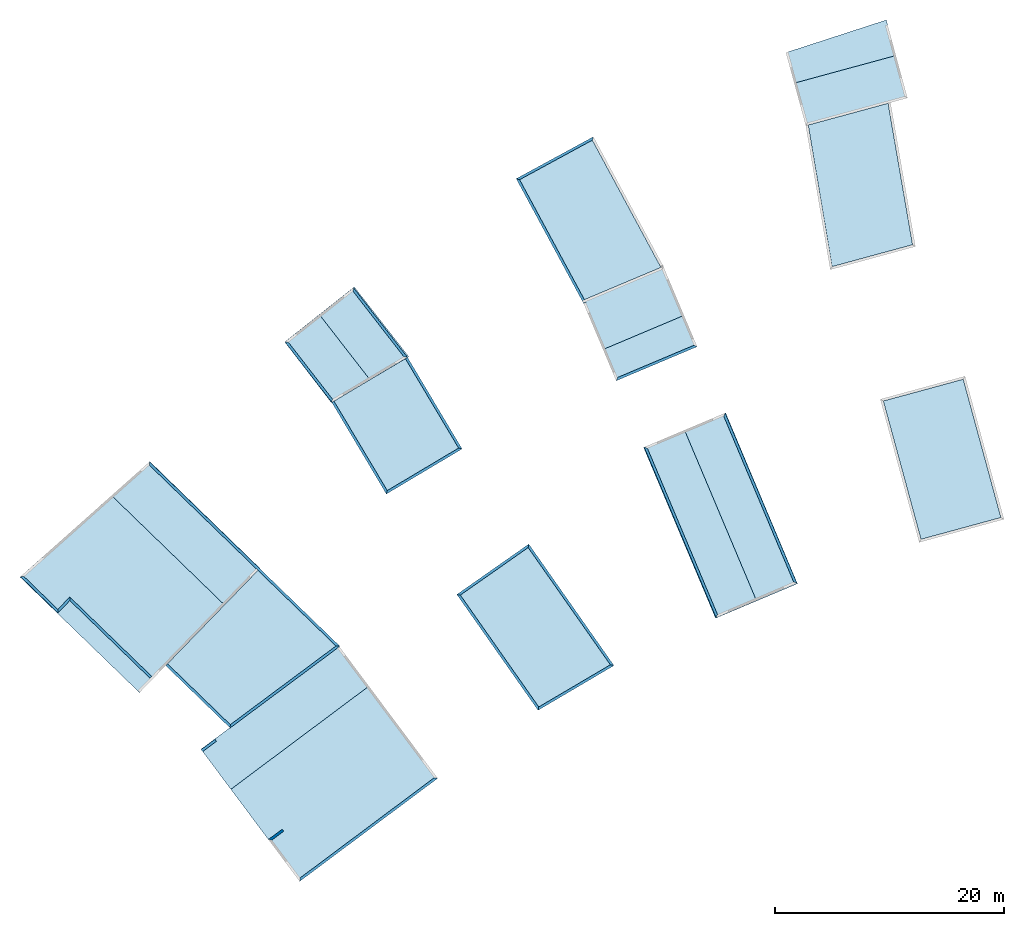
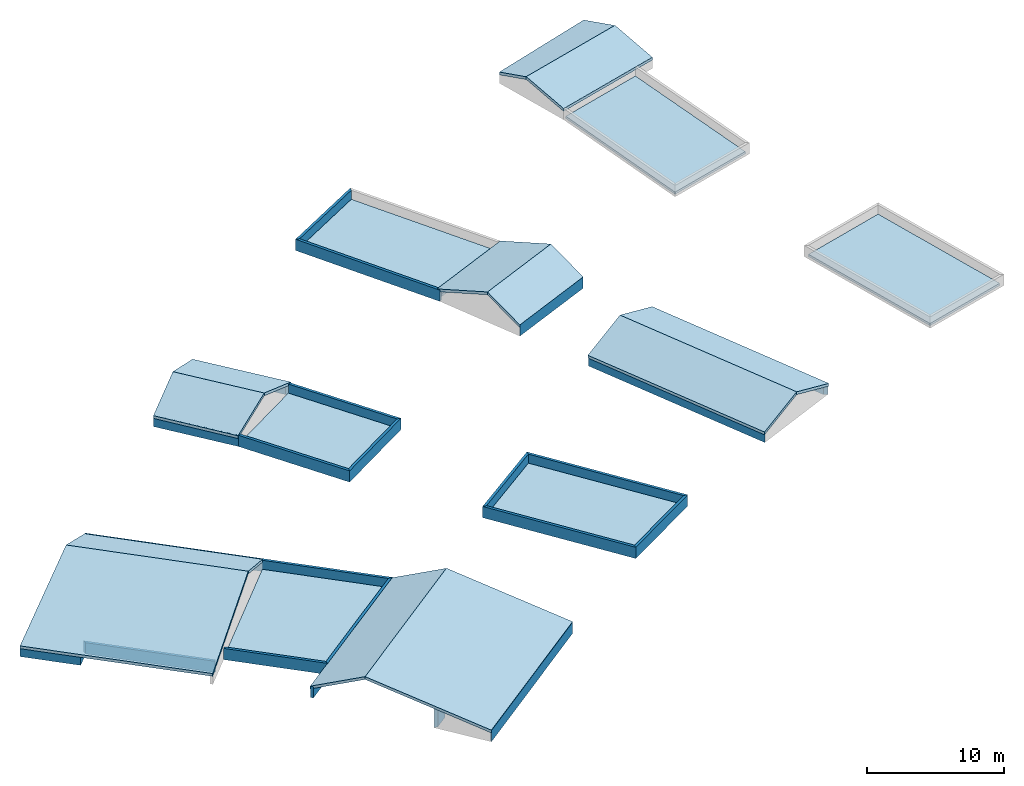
# One storey, part 1 of 4: 23 walls, 18 slabs.
"""IFC2X3 building model written with IfcOpenShell, lengths in metres."""

from ifc_helpers import new_model, entity, si_unit, converted_unit, derived_unit, money_unit, direction, frame, origin_with_axes, place, context, subcontext, project, spatial, polyline, outline, extrude, material, layer, layer_set, layer_usage, type_object, element, save


model = new_model("IFC2X3")

# Units and contexts
model_context = context("Model", 3, precision=1e-05, world=origin_with_axes(), true_north=direction((0.0, 1.0)))
body_context = subcontext(model_context, "Body", "Model", "MODEL_VIEW")
ifc_project = project(units=[si_unit("LENGTHUNIT", "METRE"), si_unit("AREAUNIT", "SQUARE_METRE"), si_unit("VOLUMEUNIT", "CUBIC_METRE"), converted_unit("PLANEANGLEUNIT", "DEGREE", entity("IfcPlaneAngleMeasure", 0.0174532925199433), si_unit("PLANEANGLEUNIT", "RADIAN"), dimensions=[0, 0, 0, 0, 0, 0, 0]), money_unit("CHF"), converted_unit("TIMEUNIT", "Year", entity("IfcTimeMeasure", 31557600.0), si_unit("TIMEUNIT", "SECOND"), dimensions=[0, 0, 1, 0, 0, 0, 0]), si_unit("MASSUNIT", "GRAM", prefix="KILO"), si_unit("THERMODYNAMICTEMPERATUREUNIT", "DEGREE_CELSIUS"), si_unit("LUMINOUSINTENSITYUNIT", "LUMEN"), si_unit("ENERGYUNIT", "JOULE", prefix="MEGA"), derived_unit("THERMALCONDUCTANCEUNIT", [(si_unit("POWERUNIT", "WATT"), 1), (si_unit("LENGTHUNIT", "METRE"), -1), (si_unit("THERMODYNAMICTEMPERATUREUNIT", "KELVIN"), -1)]), derived_unit("SPECIFICHEATCAPACITYUNIT", [(si_unit("ENERGYUNIT", "JOULE"), 1), (si_unit("MASSUNIT", "GRAM", prefix="KILO"), -1), (si_unit("THERMODYNAMICTEMPERATUREUNIT", "KELVIN"), -1)]), derived_unit("MASSDENSITYUNIT", [(si_unit("MASSUNIT", "GRAM", prefix="KILO"), 1), (si_unit("VOLUMEUNIT", "CUBIC_METRE"), -1)])], contexts=[model_context])

# Site, building, storey
site_placement = place(None, origin_with_axes())
site = spatial("IfcSite", under=ifc_project, at=site_placement, Name="Site", CompositionType="ELEMENT")
building_placement = place(site_placement, origin_with_axes())
building = spatial("IfcBuilding", under=site, at=building_placement, Name="Bâtiment", CompositionType="ELEMENT")
storey_placement = place(building_placement, frame((0.0, 0.0, 5.5), z_axis=(0.0, 0.0, 1.0), x_axis=(1.0, 0.0, 0.0)))
storey = spatial("IfcBuildingStorey", under=building, at=storey_placement, Name="Etage 2", CompositionType="ELEMENT", Elevation=5.5)

# Slabs
ifc_material_1 = material(Name="ANSI31 297159430")
ifc_layer_1 = layer(ifc_material_1, 0.2, ventilated="UNKNOWN")
ifc_layer_set_1 = layer_set([ifc_layer_1], Name="ANSI31 297159430 0.2")
ifc_layer_usage_1 = layer_usage(ifc_layer_set_1, "AXIS3", "NEGATIVE", 0.2)
slab_type_1 = type_object("IfcSlabType", Name="ANSI31 297159430 200", PredefinedType="FLOOR")
slab_1_placement = place(storey_placement, frame((9524.094661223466, -1070.024929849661, 57.9), z_axis=(0.0, 0.0, 1.0), x_axis=(1.0, 0.0, 0.0)))
element("IfcSlab", 1, at=slab_1_placement, inside=storey, type_object=slab_type_1, material=ifc_layer_usage_1, Name="Dalle-104", PredefinedType="FLOOR", context=body_context, shape_type="SweptSolid", body=[
    extrude(outline(polyline([(0.0, 0.0), (5.490273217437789, -5.319678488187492), (14.71699702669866, 1.548395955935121), (7.900115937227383, 8.153461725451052), (0.0, 0.0)])), frame((0.0, 0.0, -0.2), z_axis=(0.0, 0.0, 1.0), x_axis=(1.0, 0.0, 0.0)), (0.0, 0.0, 1.0), 0.2),
])
ifc_layer_usage_2 = layer_usage(ifc_layer_set_1, "AXIS3", "NEGATIVE", 0.2)
slab_2_placement = place(storey_placement, frame((9554.844828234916, -1027.760079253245, 57.9), z_axis=(0.0, 0.0, 1.0), x_axis=(1.0, 0.0, 0.0)))
element("IfcSlab", 2, at=slab_2_placement, inside=storey, type_object=slab_type_1, material=ifc_layer_usage_2, Name="Dalle-104", PredefinedType="FLOOR", context=body_context, shape_type="SweptSolid", body=[
    extrude(outline(polyline([(0.0, 0.0), (5.660455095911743, -10.47749066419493), (12.34550574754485, -7.658376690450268), (6.35216138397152, 3.452832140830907), (0.0, 0.0)])), frame((0.0, 0.0, -0.2), z_axis=(0.0, 0.0, 1.0), x_axis=(1.0, 0.0, 0.0)), (0.0, 0.0, 1.0), 0.2),
])
ifc_layer_usage_3 = layer_usage(ifc_layer_set_1, "AXIS3", "NEGATIVE", 0.2)
slab_3_placement = place(storey_placement, frame((9586.606430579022, -1047.081785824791, 57.9), z_axis=(0.0, 0.0, 1.0), x_axis=(1.0, 0.0, 0.0)))
element("IfcSlab", 3, at=slab_3_placement, inside=storey, type_object=slab_type_1, material=ifc_layer_usage_3, Name="Dalle-104", PredefinedType="FLOOR", context=body_context, shape_type="SweptSolid", body=[
    extrude(outline(polyline([(0.0, 0.0), (3.28843325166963, -12.07781434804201), (10.26434818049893, -10.17826943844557), (6.975626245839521, 1.899255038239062), (0.0, 0.0)])), frame((0.0, 0.0, -0.2), z_axis=(0.0, 0.0, 1.0), x_axis=(1.0, 0.0, 0.0)), (0.0, 0.0, 1.0), 0.2),
])
ifc_layer_usage_4 = layer_usage(ifc_layer_set_1, "AXIS3", "NEGATIVE", 0.2)
slab_4_placement = place(storey_placement, frame((9549.670990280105, -1064.033908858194, 57.9), z_axis=(0.0, 0.0, 1.0), x_axis=(1.0, 0.0, 0.0)))
element("IfcSlab", 4, at=slab_4_placement, inside=storey, type_object=slab_type_1, material=ifc_layer_usage_4, Name="Dalle-104", PredefinedType="FLOOR", context=body_context, shape_type="SweptSolid", body=[
    extrude(outline(polyline([(0.0, 0.0), (6.847205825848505, -9.764012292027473), (13.09557323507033, -6.082709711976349), (5.919075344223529, 4.150868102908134), (0.0, 0.0)])), frame((0.0, 0.0, -0.2), z_axis=(0.0, 0.0, 1.0), x_axis=(1.0, 0.0, 0.0)), (0.0, 0.0, 1.0), 0.2),
])
ifc_layer_usage_5 = layer_usage(ifc_layer_set_1, "AXIS3", "NEGATIVE", 0.2)
slab_5_placement = place(storey_placement, frame((9580.044478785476, -1022.984933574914, 57.9), z_axis=(0.0, 0.0, 1.0), x_axis=(1.0, 0.0, 0.0)))
element("IfcSlab", 5, at=slab_5_placement, inside=storey, type_object=slab_type_1, material=ifc_layer_usage_5, Name="Dalle-104", PredefinedType="FLOOR", context=body_context, shape_type="SweptSolid", body=[
    extrude(outline(polyline([(0.0, 0.0), (2.082615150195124, -12.36626881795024), (9.112864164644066, -10.4519287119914), (6.975914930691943, 1.899544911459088), (0.0, 0.0)])), frame((0.0, 0.0, -0.2), z_axis=(0.0, 0.0, 1.0), x_axis=(1.0, 0.0, 0.0)), (0.0, 0.0, 1.0), 0.2),
])
ifc_layer_usage_6 = layer_usage(ifc_layer_set_1, "AXIS3", "NEGATIVE", 0.2)
slab_6_placement = place(storey_placement, frame((9544.865009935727, -1043.382292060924, 57.9), z_axis=(0.0, 0.0, 1.0), x_axis=(1.0, 0.0, 0.0)))
element("IfcSlab", 6, at=slab_6_placement, inside=storey, type_object=slab_type_1, material=ifc_layer_usage_6, Name="Dalle-104", PredefinedType="FLOOR", context=body_context, shape_type="SweptSolid", body=[
    extrude(outline(polyline([(0.0, 0.0), (-6.229308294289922, -3.711382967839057), (-1.575799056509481, -11.52212072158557), (4.653537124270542, -7.810784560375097), (0.0, 0.0)])), frame((0.0, 0.0, -0.2), z_axis=(0.0, 0.0, 1.0), x_axis=(1.0, 0.0, 0.0)), (0.0, 0.0, 1.0), 0.2),
])
ifc_material_2 = material(Name="MANQUANT")
ifc_layer_2 = layer(ifc_material_2, 0.2349231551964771, ventilated="UNKNOWN")
ifc_layer_set_2 = layer_set([ifc_layer_2], Name="MANQUANT 0.234923")
ifc_layer_usage_7 = layer_usage(ifc_layer_set_2, "AXIS3", "NEGATIVE", 0.2349231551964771)
slab_type_2 = type_object("IfcSlabType", Name="MANQUANT 235", PredefinedType="ROOF")
slab_7_placement = place(storey_placement, frame((9535.939865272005, -1043.976188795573, 58.44863160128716), z_axis=(0.0, 0.0, 1.0), x_axis=(0.6132347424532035, -0.7899007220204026, 0.0)))
element("IfcSlab", 7, at=slab_7_placement, inside=storey, type_object=slab_type_2, material=ifc_layer_usage_7, Name="Toit-041", PredefinedType="ROOF", context=body_context, shape_type="SweptSolid", body=[
    extrude(outline(polyline([(-2.608368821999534, -0.01788970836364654), (4.080512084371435, -0.05107132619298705), (4.561199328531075, 4.092355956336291), (-2.644971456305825, 4.090089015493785), (-2.608368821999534, -0.01788970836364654)])), frame((0.0, 0.0, 0.0), z_axis=(0.0, -0.3420201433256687, 0.9396926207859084), x_axis=(1.0, 0.0, 0.0)), (0.0, 0.3420201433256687, 0.9396926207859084), 0.25),
])
ifc_layer_usage_8 = layer_usage(ifc_layer_set_2, "AXIS3", "NEGATIVE", 0.2349231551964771)
slab_8_placement = place(storey_placement, frame((9567.393046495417, -1035.332971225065, 58.44999999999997), z_axis=(0.0, 0.0, 1.0), x_axis=(-0.9214205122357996, -0.3885669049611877, 0.0)))
element("IfcSlab", 8, at=slab_8_placement, inside=storey, type_object=slab_type_2, material=ifc_layer_usage_8, Name="Toit-041", PredefinedType="ROOF", context=body_context, shape_type="SweptSolid", body=[
    extrude(outline(polyline([(0.0, -3.437127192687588e-10), (7.669914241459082, 0.0), (7.669914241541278, 4.93731621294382), (-1.919033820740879e-10, 4.937316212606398), (0.0, -3.437127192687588e-10)])), frame((0.0, 0.0, 0.0), z_axis=(0.0, -0.3420201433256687, 0.9396926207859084), x_axis=(1.0, 0.0, 0.0)), (0.0, 0.3420201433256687, 0.9396926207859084), 0.25),
])
ifc_layer_usage_9 = layer_usage(ifc_layer_set_2, "AXIS3", "NEGATIVE", 0.2349231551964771)
slab_9_placement = place(storey_placement, frame((9544.168159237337, -1042.033086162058, 58.44863160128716), z_axis=(0.0, 0.0, 1.0), x_axis=(-0.6132347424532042, 0.789900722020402, 0.0)))
element("IfcSlab", 9, at=slab_9_placement, inside=storey, type_object=slab_type_2, material=ifc_layer_usage_9, Name="Toit-041", PredefinedType="ROOF", context=body_context, shape_type="SweptSolid", body=[
    extrude(outline(polyline([(6.188192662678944, -0.04604614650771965), (6.155989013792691, 4.094622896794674), (-1.050181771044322, 4.092355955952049), (-1.546153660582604, -0.07096096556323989), (6.188192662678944, -0.04604614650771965)])), frame((0.0, 0.0, 0.0), z_axis=(0.0, -0.3420201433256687, 0.9396926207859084), x_axis=(1.0, 0.0, 0.0)), (0.0, 0.3420201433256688, 0.9396926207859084), 0.25),
])
ifc_layer_usage_10 = layer_usage(ifc_layer_set_2, "AXIS3", "NEGATIVE", 0.2349231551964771)
slab_10_placement = place(storey_placement, frame((9566.693666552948, -1053.468047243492, 58.45214184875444), z_axis=(0.0, 0.0, 1.0), x_axis=(0.3885669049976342, -0.9214205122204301, 0.0)))
element("IfcSlab", 10, at=slab_10_placement, inside=storey, type_object=slab_type_2, material=ifc_layer_usage_10, Name="Toit-041", PredefinedType="ROOF", context=body_context, shape_type="SweptSolid", body=[
    extrude(outline(polyline([(-2.551203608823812, -0.04548037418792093), (13.64116523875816, -0.04932131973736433), (13.64203275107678, 4.092355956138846), (-2.551203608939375, 4.092355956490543), (-2.551203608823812, -0.04548037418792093)])), frame((0.0, 0.0, 0.0), z_axis=(0.0, -0.3420201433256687, 0.9396926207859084), x_axis=(1.0, 0.0, 0.0)), (0.0, 0.3420201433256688, 0.9396926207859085), 0.25),
])
ifc_layer_usage_11 = layer_usage(ifc_layer_set_2, "AXIS3", "NEGATIVE", 0.2349231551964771)
slab_11_placement = place(storey_placement, frame((9578.985181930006, -1062.821754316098, 58.45214184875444), z_axis=(0.0, 0.0, 1.0), x_axis=(-0.3885669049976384, 0.9214205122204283, 0.0)))
element("IfcSlab", 11, at=slab_11_placement, inside=storey, type_object=slab_type_2, material=ifc_layer_usage_11, Name="Toit-041", PredefinedType="ROOF", context=body_context, shape_type="SweptSolid", body=[
    extrude(outline(polyline([(15.94597725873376, 4.092355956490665), (-0.2472591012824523, 4.092355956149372), (-0.2472591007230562, -0.03075771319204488), (15.94597725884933, -0.05272008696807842), (15.94597725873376, 4.092355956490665)])), frame((0.0, 0.0, 0.0), z_axis=(0.0, -0.3420201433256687, 0.9396926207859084), x_axis=(1.0, 0.0, 0.0)), (0.0, 0.3420201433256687, 0.9396926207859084), 0.25),
])
ifc_layer_3 = layer(ifc_material_2, 0.2172158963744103, ventilated="UNKNOWN")
ifc_layer_set_3 = layer_set([ifc_layer_3], Name="MANQUANT 0.217216")
ifc_layer_usage_12 = layer_usage(ifc_layer_set_3, "AXIS3", "NEGATIVE", 0.2172158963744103)
slab_type_3 = type_object("IfcSlabType", Name="MANQUANT 217", PredefinedType="ROOF")
slab_12_placement = place(storey_placement, frame((9563.280230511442, -1045.319105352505, 58.45000000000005), z_axis=(0.0, 0.0, 1.0), x_axis=(0.9214205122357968, 0.3885669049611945, 0.0)))
element("IfcSlab", 12, at=slab_12_placement, inside=storey, type_object=slab_type_3, material=ifc_layer_usage_12, Name="Toit-041", PredefinedType="ROOF", context=body_context, shape_type="SweptSolid", body=[
    extrude(outline(polyline([(7.66991424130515, 3.411082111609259), (-4.280309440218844e-10, 3.411082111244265), (0.0, 0.0), (7.669914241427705, 0.0), (7.66991424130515, 3.411082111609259)])), frame((0.0, 0.0, 0.0), z_axis=(0.0, -0.4950515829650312, 0.8688635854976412), x_axis=(1.0, 0.0, 0.0)), (0.0, 0.4950515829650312, 0.8688635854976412), 0.25),
])
ifc_layer_4 = layer(ifc_material_2, 0.2293858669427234, ventilated="UNKNOWN")
ifc_layer_set_4 = layer_set([ifc_layer_4], Name="MANQUANT 0.229386")
ifc_layer_usage_13 = layer_usage(ifc_layer_set_4, "AXIS3", "NEGATIVE", 0.2293858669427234)
slab_type_4 = type_object("IfcSlabType", Name="MANQUANT 229", PredefinedType="ROOF")
slab_13_placement = place(storey_placement, frame((9532.147866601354, -1061.713469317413, 58.41434845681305), z_axis=(0.0, 0.0, 1.0), x_axis=(-0.7181763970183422, 0.6958610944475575, 0.0)))
element("IfcSlab", 13, at=slab_13_placement, inside=storey, type_object=slab_type_4, material=ifc_layer_usage_13, Name="Toit-041", PredefinedType="ROOF", context=body_context, shape_type="SweptSolid", body=[
    extrude(outline(polyline([(13.3919565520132, -0.04067369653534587), (13.72236701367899, 4.815404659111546), (1.618900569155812e-10, 4.815404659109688), (0.0, -0.03504466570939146), (13.3919565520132, -0.04067369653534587)])), frame((0.0, 0.0, 0.0), z_axis=(0.0, -0.397635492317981, 0.9175434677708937), x_axis=(1.0, 0.0, 0.0)), (0.0, 0.397635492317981, 0.9175434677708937), 0.25),
])
ifc_layer_5 = layer(ifc_material_2, 0.2451832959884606, ventilated="UNKNOWN")
ifc_layer_set_5 = layer_set([ifc_layer_5], Name="MANQUANT 0.245183")
ifc_layer_usage_14 = layer_usage(ifc_layer_set_5, "AXIS3", "NEGATIVE", 0.2451832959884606)
slab_type_5 = type_object("IfcSlabType", Name="MANQUANT 245", PredefinedType="ROOF")
slab_14_placement = place(storey_placement, frame((9536.067065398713, -1088.713153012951, 58.49152631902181), z_axis=(0.0, 0.0, 1.0), x_axis=(0.8011628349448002, 0.5984464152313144, 0.0)))
element("IfcSlab", 14, at=slab_14_placement, inside=storey, type_object=slab_type_5, material=ifc_layer_usage_14, Name="Toit-041", PredefinedType="ROOF", context=body_context, shape_type="SweptSolid", body=[
    extrude(outline(polyline([(-0.5330012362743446, 0.0), (14.51013071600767, 0.0), (14.51013071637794, 10.23792706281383), (-0.533001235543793, 10.2379270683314), (-0.5330012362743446, 0.0)])), frame((0.0, 0.0, 0.0), z_axis=(0.0, -0.195352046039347, 0.9807331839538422), x_axis=(1.0, 0.0, 0.0)), (0.0, 0.195352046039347, 0.9807331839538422), 0.25),
])
ifc_layer_6 = layer(ifc_material_2, 0.2269760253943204, ventilated="UNKNOWN")
ifc_layer_set_6 = layer_set([ifc_layer_6], Name="MANQUANT 0.226976")
ifc_layer_usage_15 = layer_usage(ifc_layer_set_6, "AXIS3", "NEGATIVE", 0.2269760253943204)
slab_type_6 = type_object("IfcSlabType", Name="MANQUANT 227", PredefinedType="ROOF")
slab_15_placement = place(storey_placement, frame((9539.106460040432, -1068.535773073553, 58.44908014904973), z_axis=(0.0, 0.0, 1.0), x_axis=(-0.8021983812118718, -0.5970575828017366, 0.0)))
element("IfcSlab", 15, at=slab_15_placement, inside=storey, type_object=slab_type_6, material=ifc_layer_usage_15, Name="Toit-041", PredefinedType="ROOF", context=body_context, shape_type="SweptSolid", body=[
    extrude(outline(polyline([(15.04321519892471, -0.03871424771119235), (15.03565005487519, 4.788798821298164), (-0.007459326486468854, 4.759988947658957), (0.0, 0.0), (15.04321519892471, -0.03871424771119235)])), frame((0.0, 0.0, 0.0), z_axis=(0.0, -0.4263128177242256, 0.9045758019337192), x_axis=(1.0, 0.0, 0.0)), (0.0, 0.4263128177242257, 0.9045758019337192), 0.2509198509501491),
])
ifc_layer_7 = layer(ifc_material_2, 0.2457835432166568, ventilated="UNKNOWN")
ifc_layer_set_7 = layer_set([ifc_layer_7], Name="MANQUANT 0.245784")
ifc_layer_usage_16 = layer_usage(ifc_layer_set_7, "AXIS3", "NEGATIVE", 0.2457835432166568)
slab_type_7 = type_object("IfcSlabType", Name="MANQUANT 246", PredefinedType="ROOF")
slab_16_placement = place(storey_placement, frame((9511.259102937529, -1062.420056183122, 58.45167132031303), z_axis=(0.0, 0.0, 1.0), x_axis=(0.7181763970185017, -0.695861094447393, 0.0)))
element("IfcSlab", 16, at=slab_16_placement, inside=storey, type_object=slab_type_7, material=ifc_layer_usage_16, Name="Toit-041", PredefinedType="ROOF", context=body_context, shape_type="SweptSolid", body=[
    extrude(outline(polyline([(-0.004996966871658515, -0.05297727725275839), (14.51013071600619, -0.04375248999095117), (14.51013071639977, 10.78946229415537), (0.7877637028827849, 10.78946229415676), (-0.004996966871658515, -0.05297727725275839)])), frame((0.0, 0.0, 0.0), z_axis=(0.0, -0.1740457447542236, 0.9847375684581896), x_axis=(1.0, 0.0, 0.0)), (0.0, 0.1740457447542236, 0.9847375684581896), 0.2495929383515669),
])
ifc_layer_8 = layer(ifc_material_2, 0.2366131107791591, ventilated="UNKNOWN")
ifc_layer_set_8 = layer_set([ifc_layer_8], Name="MANQUANT 0.236613")
ifc_layer_usage_17 = layer_usage(ifc_layer_set_8, "AXIS3", "NEGATIVE", 0.2366131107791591)
slab_type_8 = type_object("IfcSlabType", Name="MANQUANT 237", PredefinedType="ROOF")
slab_17_placement = place(storey_placement, frame((9586.97497438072, -1014.243969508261, 58.44171636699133), z_axis=(0.0, 0.0, 1.0), x_axis=(-0.964868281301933, -0.2627340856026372, 0.0)))
element("IfcSlab", 17, at=slab_17_placement, inside=storey, type_object=slab_type_8, material=ifc_layer_usage_17, Name="Toit-041", PredefinedType="ROOF", context=body_context, shape_type="SweptSolid", body=[
    extrude(outline(polyline([(0.0, -0.4701749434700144), (9.203564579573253, 0.0), (9.203564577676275, 2.924018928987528), (0.0, 2.924018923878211), (0.0, -0.4701749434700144)])), frame((0.0, 0.0, 0.0), z_axis=(0.0, -0.3228432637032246, 0.9464524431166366), x_axis=(1.0, 0.0, 0.0)), (0.0, 0.3228432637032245, 0.9464524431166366), 0.25),
])
ifc_layer_9 = layer(ifc_material_2, 0.2426380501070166, ventilated="UNKNOWN")
ifc_layer_set_9 = layer_set([ifc_layer_9], Name="MANQUANT 0.242638")
ifc_layer_usage_18 = layer_usage(ifc_layer_set_9, "AXIS3", "NEGATIVE", 0.2426380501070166)
slab_type_9 = type_object("IfcSlabType", Name="MANQUANT 243", PredefinedType="ROOF")
slab_18_placement = place(storey_placement, frame((9581.311978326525, -1022.639792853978, 58.4445696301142), z_axis=(0.0, 0.0, 1.0), x_axis=(0.9648682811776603, 0.2627340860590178, 0.0)))
element("IfcSlab", 18, at=slab_18_placement, inside=storey, type_object=slab_type_9, material=ifc_layer_usage_18, Name="Toit-041", PredefinedType="ROOF", context=body_context, shape_type="SweptSolid", body=[
    extrude(outline(polyline([(7.669914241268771, 3.962235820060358), (-1.533650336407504, 3.962235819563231), (-1.533650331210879, 0.0), (7.669914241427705, 0.0), (7.669914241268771, 3.962235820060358)])), frame((0.0, 0.0, 0.0), z_axis=(0.0, -0.2408909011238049, 0.9705522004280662), x_axis=(1.0, 0.0, 0.0)), (0.0, 0.2408909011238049, 0.9705522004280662), 0.25),
])

# Walls
ifc_material_3 = material(Name="Empty Fill 3000033799")
ifc_layer_10 = layer(ifc_material_3, 0.22, ventilated="UNKNOWN")
ifc_layer_set_10 = layer_set([ifc_layer_10], Name="acrotère 22")
ifc_layer_usage_19 = layer_usage(ifc_layer_set_10, "AXIS2", "POSITIVE", 0.0)
wall_type = type_object("IfcWallType", Name="acrotère 22 220", PredefinedType="NOTDEFINED")
wall_1_placement = place(storey_placement, frame((9565.722300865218, -1051.108903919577, 57.7), z_axis=(0.0, 0.0, 1.0), x_axis=(0.3885409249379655, -0.9214314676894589, 0.0)))
element("IfcWallStandardCase", 19, at=wall_1_placement, inside=storey, type_object=wall_type, material=ifc_layer_usage_19, Name="Mur-136", context=body_context, shape_type="SweptSolid", body=[
    extrude(outline(polyline([(0.0, 0.0), (16.16597945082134, 0.0), (15.94498360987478, 0.220000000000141), (0.2199937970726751, 0.220000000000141), (0.0, 0.0)])), origin_with_axes(), (0.0, 0.0, 1.0), 1.0),
])
ifc_layer_usage_20 = layer_usage(ifc_layer_set_10, "AXIS2", "POSITIVE", 0.0)
wall_2_placement = place(storey_placement, frame((9555.643873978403, -1059.576602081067, 57.7), z_axis=(0.0, 0.0, 1.0), x_axis=(-0.8187432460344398, -0.5741598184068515, 0.0)))
element("IfcWallStandardCase", 20, at=wall_2_placement, inside=storey, type_object=wall_type, material=ifc_layer_usage_20, Name="Mur-136", context=body_context, shape_type="SweptSolid", body=[
    extrude(outline(polyline([(0.0, 0.0), (7.669464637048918, 0.0), (7.449464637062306, 0.220000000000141), (0.2200000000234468, 0.220000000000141), (0.0, 0.0)])), origin_with_axes(), (0.0, 0.0, 1.0), 1.0),
])
ifc_layer_usage_21 = layer_usage(ifc_layer_set_10, "AXIS2", "POSITIVE", 0.0)
wall_3_placement = place(storey_placement, frame((9563.280230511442, -1045.319105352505, 57.7), z_axis=(0.0, 0.0, 1.0), x_axis=(0.921420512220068, 0.3885669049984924, 0.0)))
element("IfcWallStandardCase", 21, at=wall_3_placement, inside=storey, type_object=wall_type, material=ifc_layer_usage_21, Name="Mur-136", context=body_context, shape_type="SweptSolid", body=[
    extrude(outline(polyline([(0.0, 0.0), (7.669914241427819, 0.0), (7.449914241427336, 0.2200000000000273), (0.2199999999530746, 0.2199999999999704), (0.0, 0.0)])), origin_with_axes(), (0.0, 0.0, 1.0), 1.0),
])
ifc_layer_usage_22 = layer_usage(ifc_layer_set_10, "AXIS2", "POSITIVE", 0.0)
wall_4_placement = place(storey_placement, frame((9561.285709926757, -1024.008620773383, 57.7), z_axis=(0.0, 0.0, 1.0), x_axis=(-0.8785914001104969, -0.477574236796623, 0.0)))
element("IfcWallStandardCase", 22, at=wall_4_placement, inside=storey, type_object=wall_type, material=ifc_layer_usage_22, Name="Mur-136", context=body_context, shape_type="SweptSolid", body=[
    extrude(outline(polyline([(0.0, 0.0), (7.66993948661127, 0.0), (7.450503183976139, 0.2200000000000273), (0.2205651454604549, 0.2200000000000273), (0.0, 0.0)])), origin_with_axes(), (0.0, 0.0, 1.0), 1.0),
])
ifc_layer_usage_23 = layer_usage(ifc_layer_set_10, "AXIS2", "POSITIVE", 0.0)
wall_5_placement = place(storey_placement, frame((9534.352259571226, -1041.925682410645, 57.7), z_axis=(0.0, 0.0, 1.0), x_axis=(0.6127908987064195, -0.7902450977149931, 0.0)))
element("IfcWallStandardCase", 23, at=wall_5_placement, inside=storey, type_object=wall_type, material=ifc_layer_usage_23, Name="Mur-136", context=body_context, shape_type="SweptSolid", body=[
    extrude(outline(polyline([(0.0, 0.0), (6.679664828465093, 0.0), (6.485045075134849, 0.220000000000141), (0.2179106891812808, 0.2200000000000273), (0.0, 0.0)])), origin_with_axes(), (0.0, 0.0, 1.0), 1.0),
])
ifc_layer_usage_24 = layer_usage(ifc_layer_set_10, "AXIS2", "POSITIVE", 0.0)
wall_6_placement = place(storey_placement, frame((9549.820148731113, -1051.269473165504, 57.7), z_axis=(0.0, 0.0, 1.0), x_axis=(-0.5118298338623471, 0.8590868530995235, 0.0)))
element("IfcWallStandardCase", 24, at=wall_6_placement, inside=storey, type_object=wall_type, material=ifc_layer_usage_24, Name="Mur-136", context=body_context, shape_type="SweptSolid", body=[
    extrude(outline(polyline([(0.0, 0.0), (9.311174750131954, 0.0), (9.31117475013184, 0.2200000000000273), (0.2199999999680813, 0.2199999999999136), (0.0, 0.0)])), origin_with_axes(), (0.0, 0.0, 1.0), 1.0),
])
ifc_layer_usage_25 = layer_usage(ifc_layer_set_10, "AXIS2", "POSITIVE", 0.0)
wall_7_placement = place(storey_placement, frame((9579.057291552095, -1062.992750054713, 57.7), z_axis=(0.0, 0.0, 1.0), x_axis=(-0.3885669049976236, 0.9214205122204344, 0.0)))
element("IfcWallStandardCase", 25, at=wall_7_placement, inside=storey, type_object=wall_type, material=ifc_layer_usage_25, Name="Mur-136", context=body_context, shape_type="SweptSolid", body=[
    extrude(outline(polyline([(0.0, 0.0), (16.1315556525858, 0.0), (15.91155565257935, 0.2200000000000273), (0.2190148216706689, 0.2200000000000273), (0.0, 0.0)])), origin_with_axes(), (0.0, 0.0, 1.0), 1.0),
])
ifc_layer_usage_26 = layer_usage(ifc_layer_set_10, "AXIS2", "POSITIVE", 0.0)
wall_8_placement = place(storey_placement, frame((9543.21281433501, -1055.206014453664, 57.7), z_axis=(0.0, 0.0, 1.0), x_axis=(0.8590868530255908, 0.5118298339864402, 0.0)))
element("IfcWallStandardCase", 26, at=wall_8_placement, inside=storey, type_object=wall_type, material=ifc_layer_usage_26, Name="Mur-136", context=body_context, shape_type="SweptSolid", body=[
    extrude(outline(polyline([(0.0, 0.0), (7.691113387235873, 0.0), (7.471113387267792, 0.2199999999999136), (0.2200000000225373, 0.2199999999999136), (0.0, 0.0)])), origin_with_axes(), (0.0, 0.0, 1.0), 1.0),
])
ifc_layer_usage_27 = layer_usage(ifc_layer_set_10, "AXIS2", "POSITIVE", 0.0)
wall_9_placement = place(storey_placement, frame((9523.941571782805, -1070.182928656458, 57.7), z_axis=(0.0, 0.0, 1.0), x_axis=(0.7181763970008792, -0.6958610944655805, 0.0)))
element("IfcWallStandardCase", 27, at=wall_9_placement, inside=storey, type_object=wall_type, material=ifc_layer_usage_27, Name="Mur-136", context=body_context, shape_type="SweptSolid", body=[
    extrude(outline(polyline([(1.762145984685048e-10, 0.0), (7.831839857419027, 0.0), (7.644741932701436, 0.2200000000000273), (1.787157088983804e-10, 0.2200000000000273), (1.762145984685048e-10, 0.0)])), origin_with_axes(), (0.0, 0.0, 1.0), 1.0),
])
ifc_layer_usage_28 = layer_usage(ifc_layer_set_10, "AXIS2", "POSITIVE", 0.0)
wall_10_placement = place(storey_placement, frame((9535.64004461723, -1089.032125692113, 57.7), z_axis=(0.0, 0.0, 1.0), x_axis=(0.8011628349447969, 0.598446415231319, 0.0)))
element("IfcWallStandardCase", 28, at=wall_10_placement, inside=storey, type_object=wall_type, material=ifc_layer_usage_28, Name="Mur-135", context=body_context, shape_type="SweptSolid", body=[
    extrude(outline(polyline([(0.0, 0.0), (15.04313195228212, 0.0), (14.823131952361, 0.2200000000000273), (0.2200000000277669, 0.2200000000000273), (0.0, 0.0)])), origin_with_axes(), (0.0, 0.0, 1.0), 1.0),
])
ifc_layer_usage_29 = layer_usage(ifc_layer_set_10, "AXIS2", "POSITIVE", 0.0)
wall_11_placement = place(storey_placement, frame((9539.15053135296, -1068.498546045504, 57.7), z_axis=(0.0, 0.0, 1.0), x_axis=(-0.7181763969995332, 0.6958610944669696, 0.0)))
element("IfcWallStandardCase", 29, at=wall_11_placement, inside=storey, type_object=wall_type, material=ifc_layer_usage_29, Name="Mur-136", context=body_context, shape_type="SweptSolid", body=[
    extrude(outline(polyline([(0.0, 0.0), (23.1453931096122, 0.0), (22.94110089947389, 0.2200000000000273), (0.2586880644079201, 0.2200000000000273), (0.0, 0.0)])), origin_with_axes(), (0.0, 0.0, 1.0), 1.0),
])
ifc_layer_usage_30 = layer_usage(ifc_layer_set_10, "AXIS2", "POSITIVE", 0.0)
wall_12_placement = place(storey_placement, frame((9563.08341973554, -1070.185282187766, 57.7), z_axis=(0.0, 0.0, 1.0), x_axis=(-0.5741598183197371, 0.8187432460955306, 0.0)))
element("IfcWallStandardCase", 30, at=wall_12_placement, inside=storey, type_object=wall_type, material=ifc_layer_usage_30, Name="Mur-136", context=body_context, shape_type="SweptSolid", body=[
    extrude(outline(polyline([(0.0, 0.0), (12.95727342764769, 0.0), (12.73727342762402, 0.2200000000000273), (0.2381439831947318, 0.2200000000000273), (0.0, 0.0)])), origin_with_axes(), (0.0, 0.0, 1.0), 1.0),
])
ifc_layer_usage_31 = layer_usage(ifc_layer_set_10, "AXIS2", "POSITIVE", 0.0)
wall_13_placement = place(storey_placement, frame((9549.364551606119, -1063.980100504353, 57.7), z_axis=(0.0, 0.0, 1.0), x_axis=(0.5741598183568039, -0.8187432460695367, 0.0)))
element("IfcWallStandardCase", 31, at=wall_13_placement, inside=storey, type_object=wall_type, material=ifc_layer_usage_31, Name="Mur-136", context=body_context, shape_type="SweptSolid", body=[
    extrude(outline(polyline([(0.0, 0.0), (12.3488479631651, 0.0), (12.14560957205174, 0.2200000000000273), (0.2199999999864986, 0.2200000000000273), (0.0, 0.0)])), origin_with_axes(), (0.0, 0.0, 1.0), 1.0),
])
ifc_layer_usage_32 = layer_usage(ifc_layer_set_10, "AXIS2", "POSITIVE", 0.0)
wall_14_placement = place(storey_placement, frame((9556.454763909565, -1074.090636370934, 57.7), z_axis=(0.0, 0.0, 1.0), x_axis=(0.8615849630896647, 0.5076133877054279, 0.0)))
element("IfcWallStandardCase", 32, at=wall_14_placement, inside=storey, type_object=wall_type, material=ifc_layer_usage_32, Name="Mur-136", context=body_context, shape_type="SweptSolid", body=[
    extrude(outline(polyline([(0.0, 0.0), (7.69356025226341, 0.0), (7.455416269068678, 0.2200000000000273), (0.2032383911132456, 0.2200000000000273), (0.0, 0.0)])), origin_with_axes(), (0.0, 0.0, 1.0), 1.0),
])
ifc_layer_usage_33 = layer_usage(ifc_layer_set_10, "AXIS2", "POSITIVE", 0.0)
wall_15_placement = place(storey_placement, frame((9528.242165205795, -1076.621814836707, 57.7), z_axis=(0.0, 0.0, 1.0), x_axis=(-0.8021983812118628, -0.5970575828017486, 0.0)))
element("IfcWallStandardCase", 33, at=wall_15_placement, inside=storey, type_object=wall_type, material=ifc_layer_usage_33, Name="Mur-135", context=body_context, shape_type="SweptSolid", body=[
    extrude(outline(polyline([(0.0, 0.0), (1.500002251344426, 0.0), (1.500002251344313, 0.2200000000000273), (0.0, 0.2200000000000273), (0.0, 0.0)])), origin_with_axes(), (0.0, 0.0, 1.0), 1.0),
])
ifc_layer_usage_34 = layer_usage(ifc_layer_set_10, "AXIS2", "POSITIVE", 0.0)
wall_16_placement = place(storey_placement, frame((9554.546967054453, -1027.671586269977, 57.7), z_axis=(0.0, 0.0, 1.0), x_axis=(0.475318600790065, -0.8798137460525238, 0.0)))
element("IfcWallStandardCase", 34, at=wall_16_placement, inside=storey, type_object=wall_type, material=ifc_layer_usage_34, Name="Mur-136", context=body_context, shape_type="SweptSolid", body=[
    extrude(outline(polyline([(0.0, 0.0), (12.38026927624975, 0.0), (12.39086499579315, 0.2200000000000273), (0.2194363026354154, 0.2199999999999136), (0.0, 0.0)])), origin_with_axes(), (0.0, 0.0, 1.0), 1.0),
])
ifc_layer_usage_35 = layer_usage(ifc_layer_set_10, "AXIS2", "POSITIVE", 0.0)
wall_17_placement = place(storey_placement, frame((9529.566214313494, -1075.632801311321, 57.7), z_axis=(0.0, 0.0, 1.0), x_axis=(0.8021634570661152, 0.5971045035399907, 0.0)))
element("IfcWallStandardCase", 35, at=wall_17_placement, inside=storey, type_object=wall_type, material=ifc_layer_usage_35, Name="Mur-136", context=body_context, shape_type="SweptSolid", body=[
    extrude(outline(polyline([(0.0, 0.0), (11.94808483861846, 0.0), (11.68939677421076, 0.2200000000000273), (0.1870979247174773, 0.2200000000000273), (0.0, 0.0)])), origin_with_axes(), (0.0, 0.0, 1.0), 1.0),
])
ifc_layer_usage_36 = layer_usage(ifc_layer_set_10, "AXIS2", "POSITIVE", 0.0)
wall_18_placement = place(storey_placement, frame((9534.109149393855, -1084.476168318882, 57.7), z_axis=(0.0, 0.0, 1.0), x_axis=(-0.8011628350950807, -0.5984464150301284, 0.0)))
element("IfcWallStandardCase", 36, at=wall_18_placement, inside=storey, type_object=wall_type, material=ifc_layer_usage_36, Name="Mur-135", context=body_context, shape_type="SweptSolid", body=[
    extrude(outline(polyline([(0.0, 0.0), (1.500000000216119, 0.0), (1.280000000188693, 0.2200000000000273), (0.0, 0.2200000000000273), (0.0, 0.0)])), origin_with_axes(), (0.0, 0.0, 1.0), 1.701071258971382),
])
ifc_layer_usage_37 = layer_usage(ifc_layer_set_10, "AXIS2", "POSITIVE", 0.0)
wall_19_placement = place(storey_placement, frame((9538.445497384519, -1047.204254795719, 57.7), z_axis=(0.0, 0.0, 1.0), x_axis=(0.5118298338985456, -0.859086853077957, 0.0)))
element("IfcWallStandardCase", 37, at=wall_19_placement, inside=storey, type_object=wall_type, material=ifc_layer_usage_37, Name="Mur-136", context=body_context, shape_type="SweptSolid", body=[
    extrude(outline(polyline([(0.0, 0.0), (9.314261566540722, 0.0), (9.094261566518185, 0.220000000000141), (0.0, 0.220000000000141), (0.0, 0.0)])), origin_with_axes(), (0.0, 0.0, 1.0), 1.0),
])
ifc_layer_usage_38 = layer_usage(ifc_layer_set_10, "AXIS2", "POSITIVE", 0.0)
wall_20_placement = place(storey_placement, frame((9545.05283178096, -1043.267713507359, 57.7), z_axis=(0.0, 0.0, 1.0), x_axis=(-0.6129244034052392, 0.790141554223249, 0.0)))
element("IfcWallStandardCase", 38, at=wall_20_placement, inside=storey, type_object=wall_type, material=ifc_layer_usage_38, Name="Mur-136", context=body_context, shape_type="SweptSolid", body=[
    extrude(outline(polyline([(0.0, 0.0), (7.690578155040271, 0.0), (7.468506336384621, 0.2199999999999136), (0.2487324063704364, 0.2199999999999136), (0.0, 0.0)])), origin_with_axes(), (0.0, 0.0, 1.0), 1.0),
])
ifc_layer_usage_39 = layer_usage(ifc_layer_set_10, "AXIS2", "POSITIVE", 0.0)
wall_21_placement = place(storey_placement, frame((9511.259102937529, -1062.420056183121, 57.7), z_axis=(0.0, 0.0, 1.0), x_axis=(0.7181763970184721, -0.6958610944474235, 0.0)))
element("IfcWallStandardCase", 39, at=wall_21_placement, inside=storey, type_object=wall_type, material=ifc_layer_usage_39, Name="Mur-136", context=body_context, shape_type="SweptSolid", body=[
    extrude(outline(polyline([(0.0, 0.0), (4.552444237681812, 0.0), (4.332444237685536, 0.2200000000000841), (0.236915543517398, 0.2200000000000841), (0.0, 0.0)])), origin_with_axes(), (0.0, 0.0, 1.0), 1.0),
])
ifc_layer_usage_40 = layer_usage(ifc_layer_set_10, "AXIS2", "POSITIVE", 0.0)
wall_22_placement = place(storey_placement, frame((9514.528560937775, -1065.587925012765, 57.7), z_axis=(0.0, 0.0, 1.0), x_axis=(0.6958610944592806, 0.7181763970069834, 0.0)))
element("IfcWallStandardCase", 40, at=wall_22_placement, inside=storey, type_object=wall_type, material=ifc_layer_usage_40, Name="Mur-136", context=body_context, shape_type="SweptSolid", body=[
    extrude(outline(polyline([(0.0, 0.0), (1.500000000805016, 0.0), (1.720000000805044, 0.2200000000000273), (0.2199999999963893, 0.2200000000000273), (0.0, 0.0)])), origin_with_axes(), (0.0, 0.0, 1.0), 1.0),
])
ifc_layer_usage_41 = layer_usage(ifc_layer_set_10, "AXIS2", "POSITIVE", 0.0)
wall_23_placement = place(storey_placement, frame((9515.572352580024, -1064.510660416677, 57.7), z_axis=(0.0, 0.0, 1.0), x_axis=(0.7181763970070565, -0.6958610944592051, 0.0)))
element("IfcWallStandardCase", 41, at=wall_23_placement, inside=storey, type_object=wall_type, material=ifc_layer_usage_41, Name="Mur-136", context=body_context, shape_type="SweptSolid", body=[
    extrude(outline(polyline([(0.0, 0.0), (9.737686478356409, 0.0), (9.737686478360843, 0.2200000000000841), (-0.2200000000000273, 0.2200000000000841), (0.0, 0.0)])), origin_with_axes(), (0.0, 0.0, 1.0), 1.0),
])

save(model, "model.ifc")
